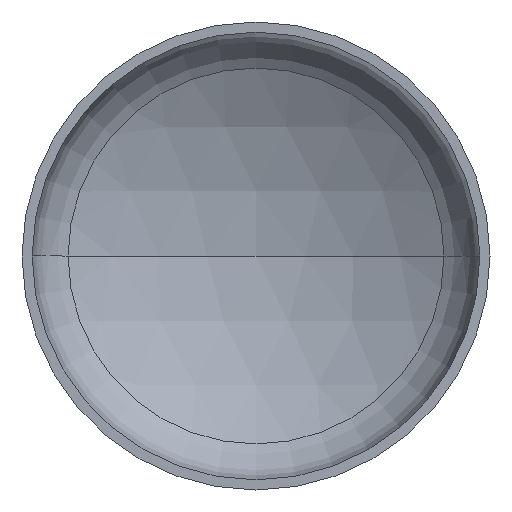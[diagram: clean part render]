
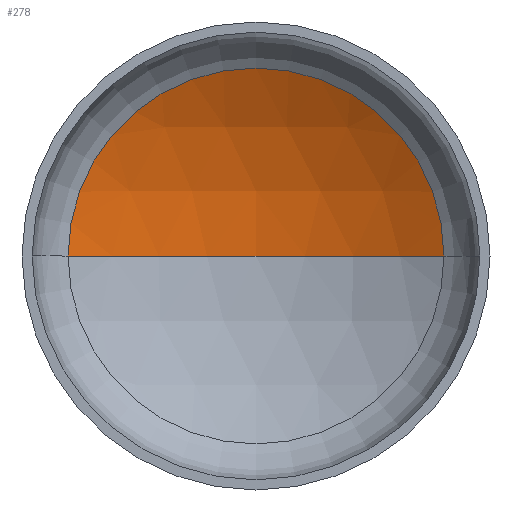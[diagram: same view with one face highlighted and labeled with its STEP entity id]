
A CAD part, front view. The second image highlights one B-rep face of the part: STEP entity #278.
In plain terms, the highlighted spherical face has radius 960 mm.
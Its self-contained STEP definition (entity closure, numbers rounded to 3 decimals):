
#3 = AXIS2_PLACEMENT_3D ( 'NONE', #376, #41, #391 ) ;
#4 = DIRECTION ( 'NONE',  ( 0., 0., 1. ) ) ;
#18 = AXIS2_PLACEMENT_3D ( 'NONE', #377, #4, #23 ) ;
#19 = AXIS2_PLACEMENT_3D ( 'NONE', #157, #162, #166 ) ;
#20 = AXIS2_PLACEMENT_3D ( 'NONE', #204, #206, #190 ) ;
#23 = DIRECTION ( 'NONE',  ( 1., 0., 0. ) ) ;
#39 = ORIENTED_EDGE ( 'NONE', *, *, #62, .T. ) ;
#41 = DIRECTION ( 'NONE',  ( 0., 0., -1. ) ) ;
#53 = EDGE_LOOP ( 'NONE', ( #137, #109, #39 ) ) ;
#56 = VERTEX_POINT ( 'NONE', #316 ) ;
#62 = EDGE_CURVE ( 'NONE', #212, #56, #179, .T. ) ;
#63 = EDGE_CURVE ( 'NONE', #230, #212, #86, .T. ) ;
#67 = EDGE_CURVE ( 'NONE', #230, #56, #382, .T. ) ;
#86 = CIRCLE ( 'NONE', #19, 960. ) ;
#109 = ORIENTED_EDGE ( 'NONE', *, *, #63, .T. ) ;
#131 = FACE_OUTER_BOUND ( 'NONE', #53, .T. ) ;
#137 = ORIENTED_EDGE ( 'NONE', *, *, #67, .F. ) ;
#142 = CARTESIAN_POINT ( 'NONE',  ( 0., 374.699, 0. ) ) ;
#144 = CARTESIAN_POINT ( 'NONE',  ( 481.858, 245.007, 0. ) ) ;
#157 = CARTESIAN_POINT ( 'NONE',  ( 0., -585.301, 0. ) ) ;
#162 = DIRECTION ( 'NONE',  ( 0., 0., -1. ) ) ;
#166 = DIRECTION ( 'NONE',  ( -1., 0., 0. ) ) ;
#179 = CIRCLE ( 'NONE', #20, 481.858 ) ;
#190 = DIRECTION ( 'NONE',  ( 1., 0., 0. ) ) ;
#204 = CARTESIAN_POINT ( 'NONE',  ( 0., 245.007, 0. ) ) ;
#206 = DIRECTION ( 'NONE',  ( 0., -1., 0. ) ) ;
#212 = VERTEX_POINT ( 'NONE', #144 ) ;
#229 = SPHERICAL_SURFACE ( 'NONE', #3, 960. ) ;
#230 = VERTEX_POINT ( 'NONE', #142 ) ;
#278 = ADVANCED_FACE ( 'NONE', ( #131 ), #229, .F. ) ;
#316 = CARTESIAN_POINT ( 'NONE',  ( -481.858, 245.007, 0. ) ) ;
#376 = CARTESIAN_POINT ( 'NONE',  ( 0., -585.301, 0. ) ) ;
#377 = CARTESIAN_POINT ( 'NONE',  ( 0., -585.301, 0. ) ) ;
#382 = CIRCLE ( 'NONE', #18, 960. ) ;
#391 = DIRECTION ( 'NONE',  ( -1., 0., 0. ) ) ;
